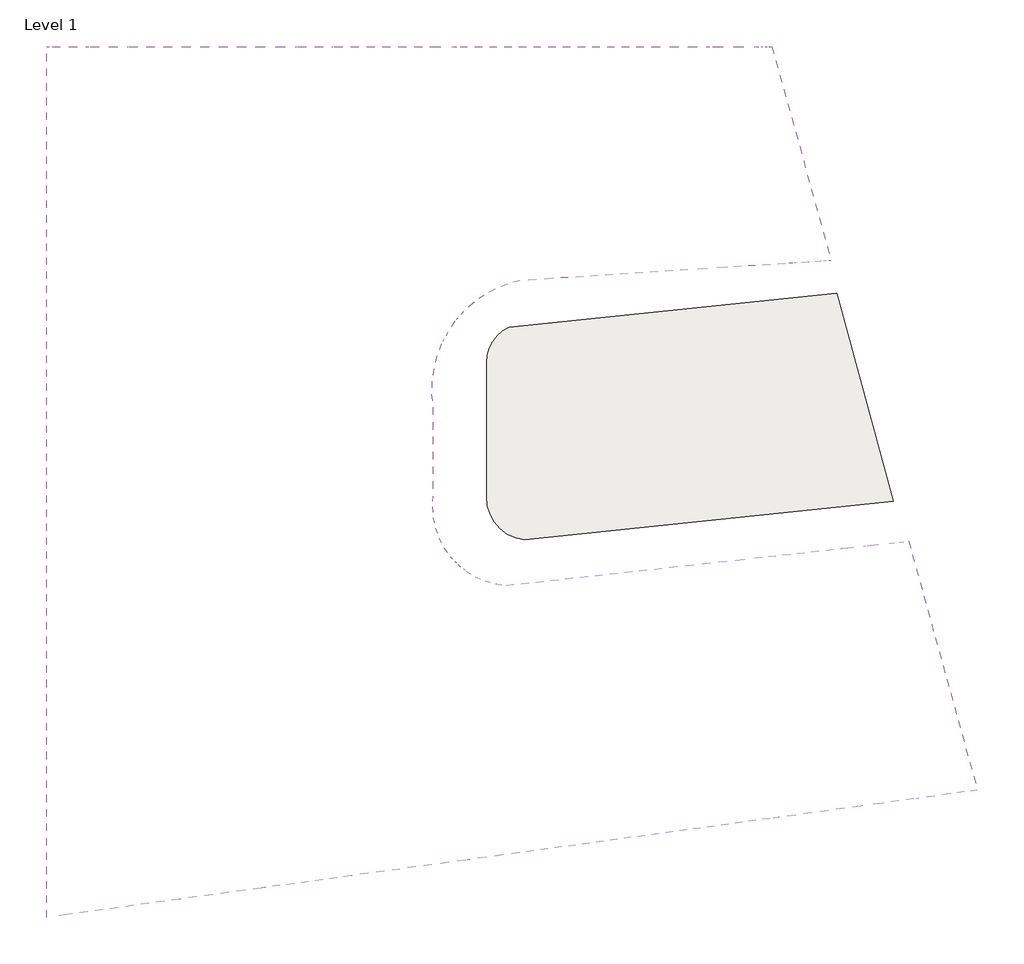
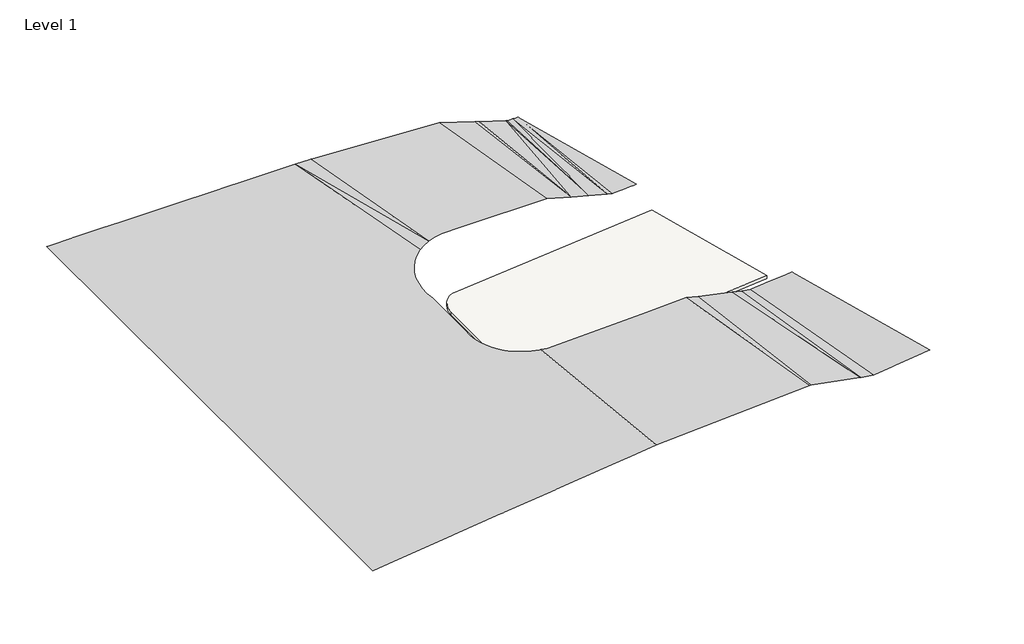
# One storey, incomplete: 1 proxy, 1 slab.
"""IFC4 building model written with IfcOpenShell, lengths in millimetres."""

from ifc_helpers import new_model, si_unit, point, frame, frame_2d, origin, place, context, project, spatial, polyline, circle_curve, trimmed, segment, composite_curve, outline, extrude, triangles, element, save

model = new_model("IFC4")

# Units and contexts
model_context = context("Model", 3, world=origin())
ifc_project = project(units=[si_unit("LENGTHUNIT", "METRE", prefix="MILLI")], contexts=[model_context])

# Site, building, storey
site = spatial("IfcSite", under=ifc_project)
building = spatial("IfcBuilding", under=site)
storey = spatial("IfcBuildingStorey", under=building, Name="Level 1", Elevation=-1249.8465897)

# Proxy
placement = place(None, origin())
element("IfcBuildingElementProxy", 1, Name="Building Element Proxy", at=placement, inside=storey, context=model_context, shape_type="Tessellation", body=[
    triangles([(-81656.1785889, -39207.7835449, 3048.0), (-81656.1785889, -50323.6213257, 3048.0), (-81656.1785889, -75099.6439087, 3048.0), (-81656.1785889, -94187.6648437, 3048.0), (-80036.7518555, -93966.3667236, 3048.0), (-73269.5695679, -93041.6231689, 3048.0), (-73192.8114624, -93031.1307861, 3048.0), (-68109.856604, -92336.5313232, 3048.0), (-68054.5716064, -92328.9782959, 3048.0), (-67993.5939331, -92320.6439209, 3048.0), (-67900.7995972, -92307.965625, 3048.0), (-67832.7665405, -92298.6638672, 3048.0), (-62426.7988403, -91559.9275635, 3048.0), (-62346.538623, -91548.960791, 3048.0), (-57336.8397583, -90864.3700195, 3048.0), (-55191.0405029, -90571.1414062, 3048.0), (-54993.6060425, -90544.1663086, 3048.0), (-54947.460022, -90537.8597168, 3048.0), (-51769.6121338, -90103.5978516, 3048.0), (-35990.9496643, -87947.4038818, 2168.331601), (-35530.5312561, -87884.486792, 2144.9625332), (-35391.8420471, -87865.5391113, 2099.1991928), (-30252.6162048, -87163.2470947, 636.8849625), (-30129.1051392, -87146.3737061, 596.1515113), (-28820.787323, -86967.5846191, 304.8), (-28799.9560364, -86964.7382812, 304.8), (-26915.0827148, -86707.1633057, 304.8), (-26602.34599, -86664.4310303, 304.8), (-24577.0231018, -86387.6665283, 304.8), (-23712.8921265, -86269.5807129, 304.8), (-22911.1178101, -86160.0153076, 304.8), (-22881.8684326, -86156.0155518, 304.8), (-27227.1497131, -70433.4078003, 304.8), (-27247.8437988, -70435.6774292, 304.8), (-27814.9254639, -70497.8643311, 304.8), (-28425.6091187, -70564.8323364, 304.8), (-29854.8590881, -70721.5623047, 304.8), (-30075.2967957, -70745.7375732, 304.8), (-31402.4529968, -70891.272876, 304.8), (-31522.6851929, -70904.4581177, 304.8), (-32438.0339722, -71004.8380371, 507.7356872), (-33378.3765747, -71107.9573242, 816.5437637), (-36941.0079529, -71498.6404541, 1826.1133907), (-38186.1179993, -71635.180957, 2235.3700962), (-42351.9172119, -72092.0042358, 2446.5096794), (-52628.5969116, -73218.9540527, 3018.1718788), (-53175.7821167, -73145.470166, 3048.0), (-53303.4906006, -73128.3177246, 3048.0), (-53959.8691406, -72947.0311157, 3048.0), (-54585.6123413, -72678.438208, 3048.0), (-55169.1674194, -72327.4968384, 3048.0), (-55350.7516846, -72181.4359863, 3048.0), (-55699.7629395, -71900.690332, 3048.0), (-55895.4812256, -71693.6983154, 3048.0), (-56167.6041504, -71405.8972778, 3048.0), (-56564.0543701, -70852.252002, 3048.0), (-56881.7931152, -70249.9724854, 3048.0), (-57114.9509766, -69610.1836304, 3048.0), (-57259.230542, -68944.6893677, 3048.0), (-57311.9668579, -68265.7819702, 3048.0), (-57272.1785889, -67585.9955566, 3048.0), (-57272.1785889, -61994.3182617, 3048.0), (-57351.8155884, -61175.3310425, 3048.0), (-57335.8305176, -60352.6370728, 3048.0), (-57224.4419678, -59537.3659058, 3048.0), (-57019.1521729, -58740.5354736, 3048.0), (-56722.7423584, -57972.9311646, 3048.0), (-56566.1565674, -57675.6981445, 3048.0), (-56339.221582, -57244.9290894, 3048.0), (-55873.7709229, -56566.3751587, 3048.0), (-55698.2281494, -56365.2525513, 3048.0), (-55332.6923218, -55946.4455566, 3048.0), (-54723.2969604, -55393.5304688, 3048.0), (-54652.0036377, -55342.5800903, 3048.0), (-54053.8308472, -54915.0992065, 3013.0713181), (-53333.3492432, -54517.6304443, 2971.5372253), (-52571.5910889, -54206.4959473, 2928.1224335), (-51778.8673828, -53985.9001099, 2883.4144066), (-49670.0891235, -53850.6851074, 2766.5479935), (-41181.5467896, -53306.3880981, 2337.3474472), (-38678.1414551, -53145.8676636, 1519.8926926), (-36897.5943237, -53031.6932373, 1018.8172457), (-35026.1248352, -52911.6959106, 408.6298179), (-34554.2489868, -52881.4372925, 304.8), (-34320.8957886, -52866.475415, 304.8), (-33624.0732056, -52821.7944214, 304.8), (-33508.1174927, -52814.357666, 304.8), (-32754.803009, -52766.0536377, 304.8), (-32432.1389832, -52745.3665283, 304.8), (-32132.0875305, -52726.1258423, 304.8), (-32121.1300598, -52725.4235596, 304.8), (-35857.0183044, -39207.7835449, 304.8), (-35860.4064697, -39207.7835449, 304.8), (-35953.1031372, -39207.7835449, 304.8), (-36052.5784607, -39207.7835449, 304.8), (-36284.0015442, -39207.7835449, 304.8), (-36319.5203064, -39207.7835449, 304.8), (-36532.4096375, -39207.7835449, 304.8), (-36854.2272034, -39207.7835449, 304.8), (-36986.3703003, -39207.7835449, 333.5661584), (-39588.932373, -39207.7835449, 1173.5068588), (-39997.4144165, -39207.7835449, 1287.3323238), (-43485.6480103, -39207.7835449, 2415.7890255), (-55544.61427, -39207.7835449, 3023.4532425), (-55989.9033691, -39207.7835449, 3048.0), (-56075.1772339, -39207.7835449, 3048.0), (-57449.730542, -39207.7835449, 3048.0), (-63442.1182617, -39207.7835449, 3048.0), (-63506.3608521, -39207.7835449, 3048.0), (-63653.6262817, -39207.7835449, 3048.0), (-65788.5796875, -39207.7835449, 3048.0), (-65944.146936, -39207.7835449, 3048.0), (-68467.4812866, -39207.7835449, 3048.0), (-71961.3284912, -39207.7835449, 3048.0), (-74290.5630615, -39207.7835449, 3048.0), (-76425.6932007, -39207.7835449, 3048.0), (-76571.8331177, -39207.7835449, 3048.0), (-78902.3652832, -39207.7835449, 3048.0), (-79092.37229, -39207.7835449, 3048.0), (-79173.33479, -39207.7835449, 3048.0), (-81310.1531982, -39207.7835449, 3048.0)], [[3, 4, 5], [6, 3, 5], [7, 8, 3], [9, 10, 3], [8, 9, 3], [3, 6, 7], [11, 12, 3], [63, 3, 62], [12, 56, 3], [11, 3, 10], [53, 13, 14], [63, 2, 3], [51, 14, 15], [12, 13, 55], [2, 63, 64], [54, 13, 53], [53, 14, 52], [49, 15, 16], [16, 17, 49], [51, 52, 14], [55, 13, 54], [59, 60, 3], [62, 3, 61], [61, 3, 60], [56, 12, 55], [58, 3, 57], [57, 3, 56], [3, 58, 59], [51, 15, 50], [2, 113, 114], [112, 113, 69], [2, 114, 115], [71, 109, 110], [69, 111, 112], [70, 110, 111], [113, 2, 67], [121, 2, 120], [1, 2, 121], [120, 2, 119], [115, 116, 2], [117, 118, 2], [116, 117, 2], [119, 2, 118], [68, 113, 67], [67, 2, 66], [70, 111, 69], [71, 108, 109], [71, 110, 70], [69, 113, 68], [107, 108, 73], [76, 105, 106], [106, 107, 76], [74, 107, 73], [107, 74, 75], [77, 104, 105], [73, 108, 72], [108, 71, 72], [66, 2, 65], [2, 64, 65], [49, 17, 18], [47, 48, 19], [46, 47, 19], [46, 19, 45], [20, 21, 44], [19, 20, 45], [49, 18, 48], [43, 21, 22], [50, 15, 49], [44, 45, 20], [42, 43, 22], [24, 40, 41], [41, 42, 23], [44, 21, 43], [23, 42, 22], [18, 19, 48], [40, 24, 25], [39, 40, 25], [37, 26, 27], [27, 28, 36], [39, 25, 26], [28, 29, 35], [39, 26, 38], [37, 27, 36], [26, 37, 38], [33, 29, 30], [33, 31, 32], [30, 31, 33], [35, 36, 28], [35, 29, 34], [24, 41, 23], [78, 104, 77], [77, 105, 76], [79, 103, 104], [80, 81, 102], [79, 80, 103], [79, 104, 78], [101, 102, 81], [100, 101, 81], [103, 80, 102], [82, 99, 100], [99, 82, 98], [97, 98, 82], [82, 83, 97], [100, 81, 82], [76, 107, 75], [83, 84, 92], [85, 86, 92], [84, 85, 92], [33, 34, 29], [87, 88, 92], [86, 87, 92], [94, 95, 83], [93, 94, 83], [96, 83, 95], [89, 90, 92], [91, 92, 90], [92, 93, 83], [88, 89, 92], [83, 96, 97]], closed=False),
])

# Slab
element("IfcSlab", 2, ObjectType="Terre-plein 1", at=placement, inside=storey, context=model_context, shape_type="SweptSolid", body=[
    extrude(outline(composite_curve([segment(polyline([(-52446.610729, -56930.9519075), (-31776.7304773, -54774.1890252), (-28188.6280433, -67921.9307081), (-51500.5911776, -70361.0492515)]), True, "CONTINUOUS"), segment(trimmed(circle_curve(frame_2d((-51117.6992464, -67627.5311188)), 2760.2042701), [point((-51500.5911776, -70361.0492515))], [point((-53877.9035166, -67627.5311188))], False, "CARTESIAN"), True, "CONTINUOUS"), segment(polyline([(-53877.9035166, -67627.5311188), (-53877.9035166, -59151.7208855)]), True, "CONTINUOUS"), segment(trimmed(circle_curve(frame_2d((-51439.4038756, -59151.7208855)), 2438.4996409), [point((-53877.9035166, -59151.7208855))], [point((-52446.610729, -56930.9519075))], False, "CARTESIAN"), True, "CONTINUOUS")], self_intersect=False)), frame((0.0, 0.0, -1554.6465897), z_axis=(0.0, 0.0, 1.0), x_axis=(1.0, 0.0, 0.0)), (0.0, 0.0, 1.0), 304.8),
])

save(model, "model.ifc")
